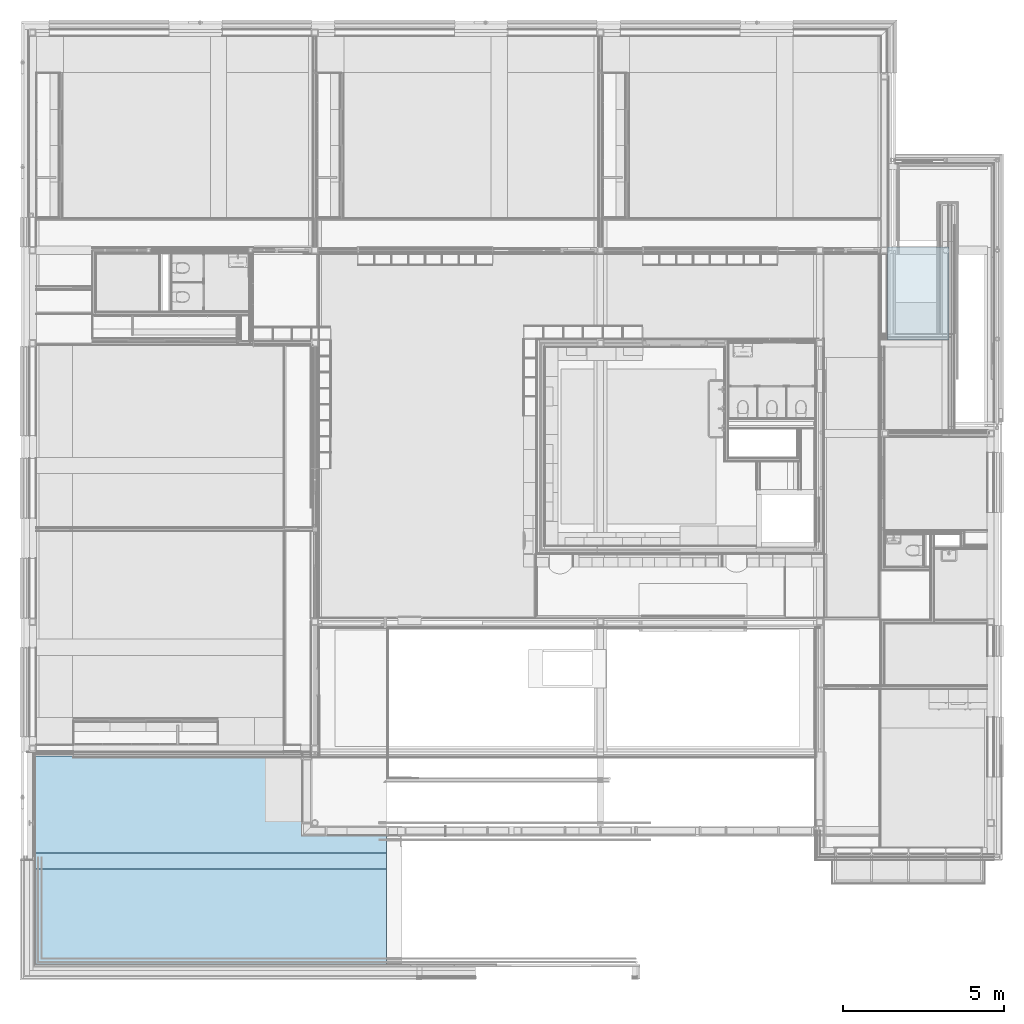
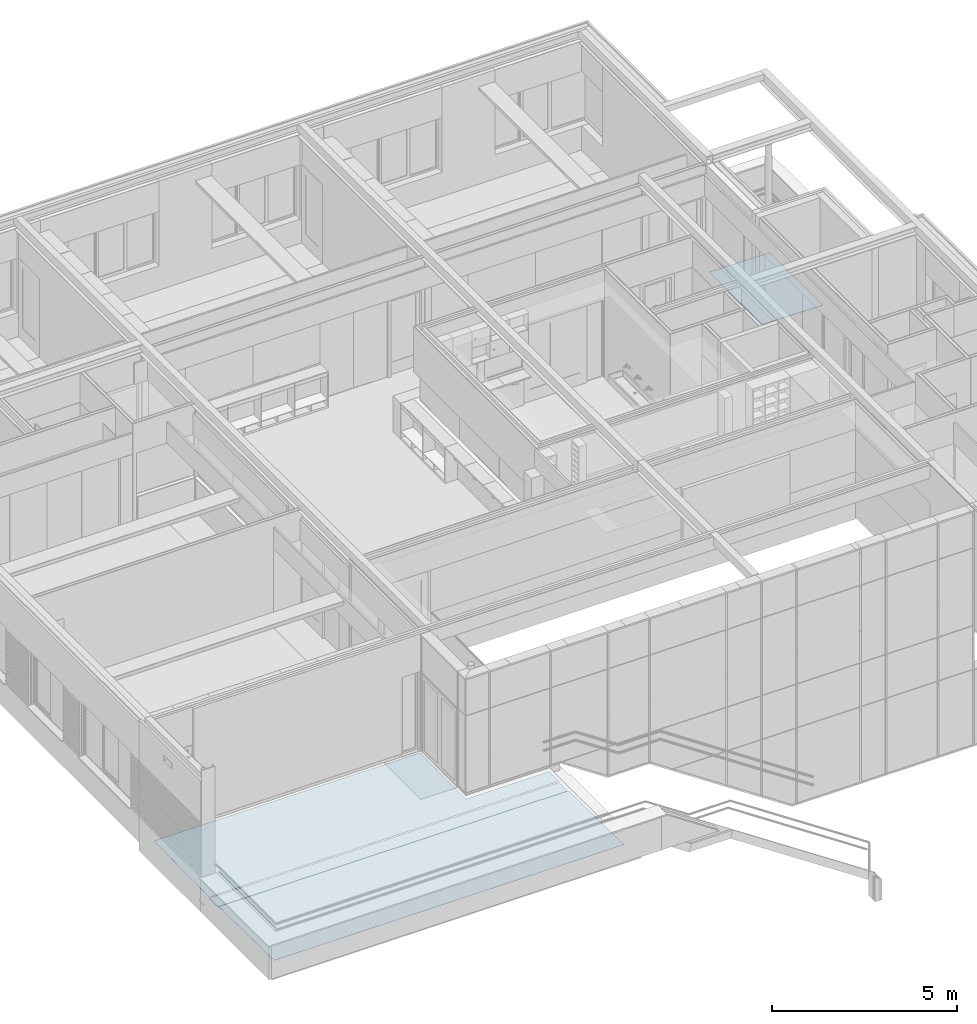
# One storey, part 44 of 137: 4 roofs.
"""IFC2X3 building model written with IfcOpenShell, lengths in millimetres."""

from ifc_helpers import new_model, entity, si_unit, converted_unit, derived_unit, money_unit, direction, frame, origin_with_axes, place, context, subcontext, project, spatial, faceted_brep, material, element, save


model = new_model("IFC2X3")

# Units and contexts
model_context = context("Model", 3, precision=0.01, world=origin_with_axes(), true_north=direction((0.0, 1.0)))
body_context = subcontext(model_context, "Body", "Model", "MODEL_VIEW")
ifc_project = project(units=[si_unit("LENGTHUNIT", "METRE", prefix="MILLI"), si_unit("AREAUNIT", "SQUARE_METRE"), si_unit("VOLUMEUNIT", "CUBIC_METRE"), converted_unit("PLANEANGLEUNIT", "DEGREE", entity("IfcPlaneAngleMeasure", 0.0174532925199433), si_unit("PLANEANGLEUNIT", "RADIAN"), dimensions=[0, 0, 0, 0, 0, 0, 0]), money_unit("EUR"), converted_unit("TIMEUNIT", "Year", entity("IfcTimeMeasure", 31556926.0), si_unit("TIMEUNIT", "SECOND"), dimensions=[0, 0, 1, 0, 0, 0, 0]), si_unit("MASSUNIT", "GRAM", prefix="KILO"), si_unit("THERMODYNAMICTEMPERATUREUNIT", "DEGREE_CELSIUS"), si_unit("LUMINOUSINTENSITYUNIT", "LUMEN"), si_unit("ENERGYUNIT", "JOULE", prefix="MEGA"), derived_unit("THERMALCONDUCTANCEUNIT", [(si_unit("POWERUNIT", "WATT"), 1), (si_unit("LENGTHUNIT", "METRE"), -1), (si_unit("THERMODYNAMICTEMPERATUREUNIT", "KELVIN"), -1)]), derived_unit("SPECIFICHEATCAPACITYUNIT", [(si_unit("ENERGYUNIT", "JOULE"), 1), (si_unit("MASSUNIT", "GRAM", prefix="KILO"), -1), (si_unit("THERMODYNAMICTEMPERATUREUNIT", "KELVIN"), -1)]), derived_unit("MASSDENSITYUNIT", [(si_unit("MASSUNIT", "GRAM", prefix="KILO"), 1), (si_unit("VOLUMEUNIT", "CUBIC_METRE"), -1)])], contexts=[model_context])

# Site, building, storey
site_placement = place(None, origin_with_axes())
site = spatial("IfcSite", under=ifc_project, at=site_placement, Name="Site", CompositionType="ELEMENT")
building_placement = place(site_placement, origin_with_axes())
building = spatial("IfcBuilding", under=site, at=building_placement, Name="Naam gebouw", CompositionType="ELEMENT")
storey_placement = place(building_placement, frame((0.0, 0.0, 3960.0), z_axis=(0.0, 0.0, 1.0), x_axis=(1.0, 0.0, 0.0)))
storey = spatial("IfcBuildingStorey", under=building, at=storey_placement, Name="1e verdieping", CompositionType="ELEMENT", Elevation=3960.0)

# Roofs
ifc_material = material(Name="47 waterdichte laag - bitumen")
roof_1_placement = place(storey_placement, frame((2098.620860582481, 3651.999999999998, -160.0000000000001), z_axis=(0.0, 0.0, 1.0), x_axis=(1.0, 0.0, 0.0)))
element("IfcRoof", 1, at=roof_1_placement, inside=storey, material=ifc_material, Name="27_Dak-x", ShapeType="NOTDEFINED", context=body_context, shape_type="Brep", body=[
    faceted_brep([(6357.52913941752, 3000.000000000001, 48.00033748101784), (-1966.620860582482, 3000.000000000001, 48.00033748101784), (-1966.620860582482, 0.0, 3.000337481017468), (8976.378996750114, 0.0, 3.000337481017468), (8976.378996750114, 531.0000000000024, 10.96533748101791), (6357.52913941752, 531.0000000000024, 10.96533748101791), (6357.529139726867, 3000.000000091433, 45.00000044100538), (-1966.620860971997, 3000.000000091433, 45.00000044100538), (-1966.620860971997, -3.894706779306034e-07, 4.337916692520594e-07), (8976.378996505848, -3.894706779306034e-07, 4.337916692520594e-07), (8976.378996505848, 530.9999999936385, 7.965000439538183), (6357.529139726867, 530.9999999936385, 7.965000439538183)], [[[0, 1, 2, 3, 4, 5]], [[1, 0, 6, 7]], [[2, 1, 7, 8]], [[3, 2, 8, 9]], [[4, 3, 9, 10]], [[5, 4, 10, 11]], [[0, 5, 11, 6]], [[7, 6, 11, 10, 9, 8]]]),
])
roof_2_placement = place(storey_placement, frame((4315.064006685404, 3145.959504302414, -159.9999999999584), z_axis=(0.0, 0.0, 1.0), x_axis=(-1.0, 0.0, 0.0)))
element("IfcRoof", 2, at=roof_2_placement, inside=storey, material=ifc_material, Name="27_Dak-x", ShapeType="NOTDEFINED", context=body_context, shape_type="Brep", body=[
    faceted_brep([(4183.064006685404, 0.0, 3.000337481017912), (4183.064006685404, 3013.959504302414, 48.20973004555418), (-6759.935850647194, 3013.959504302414, 48.20973004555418), (-6759.935850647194, 0.0, 3.000337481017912), (4183.06400707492, -3.06890068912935e-07, 4.350302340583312e-07), (4183.06400707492, 3013.959504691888, 45.20939301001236), (-6759.935850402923, 3013.959504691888, 45.20939301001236), (-6759.935850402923, -3.06890068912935e-07, 4.350302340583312e-07)], [[[0, 1, 2, 3]], [[1, 0, 4, 5]], [[2, 1, 5, 6]], [[3, 2, 6, 7]], [[0, 3, 7, 4]], [[5, 4, 7, 6]]]),
])
roof_3_placement = place(storey_placement, frame((28500.00006871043, 22424.97621300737, -162.9850007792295), z_axis=(0.0, 0.0, 1.0), x_axis=(-1.556161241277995e-08, -1.0, 0.0)))
element("IfcRoof", 3, at=roof_3_placement, inside=storey, material=ifc_material, Name="27_Dak-x", ShapeType="NOTDEFINED", context=body_context, shape_type="Brep", body=[
    faceted_brep([(2874.975849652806, -1900.00002397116, 31.50033784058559), (2874.975820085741, 0.0, 3.000337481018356), (-0.0236340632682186, -4.473962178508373e-05, 3.000338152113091), (-0.023604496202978, -1900.000068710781, 31.50033851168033), (2874.975850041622, -1900.000024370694, 28.50000080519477), (2874.975820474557, -1.648707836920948e-07, 4.421076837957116e-07), (-0.02363377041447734, -4.489443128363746e-05, 1.113050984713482e-06), (-0.02360420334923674, -1900.000069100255, 28.50000147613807)], [[[0, 1, 2, 3]], [[1, 0, 4, 5]], [[2, 1, 5, 6]], [[3, 2, 6, 7]], [[0, 3, 7, 4]], [[5, 4, 7, 6]]]),
])
roof_4_placement = place(storey_placement, frame((2071.755248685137, 3145.959504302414, -189.9999999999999), z_axis=(0.0, 0.0, 1.0), x_axis=(1.0, 0.0, 0.0)))
element("IfcRoof", 4, at=roof_4_placement, inside=storey, material=ifc_material, Name="27_Dak-x", ShapeType="NOTDEFINED", context=body_context, shape_type="Brep", body=[
    faceted_brep([(-1939.755248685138, 0.0, 3.000000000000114), (-1939.755248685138, 0.0, 0.0), (9003.244750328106, 0.0, 0.0), (9003.244750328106, 0.0, 3.000000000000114), (-1939.755248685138, 506.0404732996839, 3.000000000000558), (-1939.755248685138, 506.0404732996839, 0.0), (9003.244750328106, 506.0404732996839, 0.0), (9003.244750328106, 506.0404732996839, 3.000000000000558)], [[[0, 1, 2, 3]], [[4, 5, 1, 0]], [[2, 1, 5, 6]], [[3, 2, 6, 7]], [[4, 0, 3, 7]], [[7, 6, 5, 4]]]),
])

save(model, "model.ifc")
